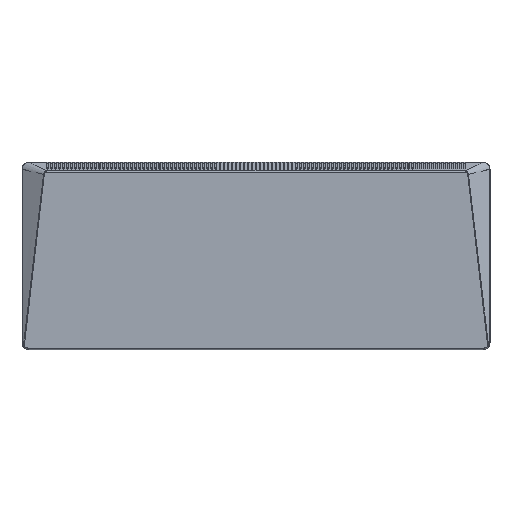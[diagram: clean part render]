
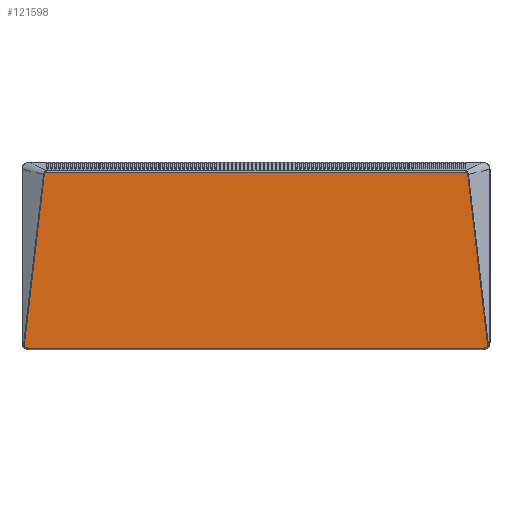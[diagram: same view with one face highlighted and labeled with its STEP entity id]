
A CAD part, top view. The second image highlights one B-rep face of the part: STEP entity #121598.
In plain terms, the highlighted planar face has unit normal (0, 0, 1).
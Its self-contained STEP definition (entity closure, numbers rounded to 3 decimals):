
#121598 = ADVANCED_FACE('',(#121599),#121742,.T.);
#121599 = FACE_BOUND('',#121600,.F.);
#121600 = EDGE_LOOP('',(#121601,#121639,#121659,#121667,#121685,#121718,
    #121727,#121735));
#121601 = ORIENTED_EDGE('',*,*,#121602,.F.);
#121602 = EDGE_CURVE('',#121603,#121605,#121607,.T.);
#121603 = VERTEX_POINT('',#121604);
#121604 = CARTESIAN_POINT('',(-474.95,182.919,52.));
#121605 = VERTEX_POINT('',#121606);
#121606 = CARTESIAN_POINT('',(-519.778,-201.957,52.));
#121607 = B_SPLINE_CURVE_WITH_KNOTS('',3,(#121608,#121609,#121610,
    #121611,#121612,#121613,#121614,#121615,#121616,#121617,#121618,
    #121619,#121620,#121621,#121622,#121623,#121624,#121625,#121626,
    #121627,#121628,#121629,#121630,#121631,#121632,#121633,#121634,
    #121635,#121636,#121637,#121638),.UNSPECIFIED.,.F.,.F.,(4,1,1,1,1,1,
    1,1,1,1,1,1,1,1,1,1,1,1,1,1,1,1,1,1,1,1,1,1,4),(0.,
    0.036,0.071,0.107,0.143,
    0.179,0.214,0.25,0.286,0.321,
    0.357,0.393,0.429,0.464,0.5,
    0.536,0.571,0.607,0.643,
    0.679,0.714,0.75,0.786,0.821,
    0.857,0.893,0.929,0.964,1.),
  .UNSPECIFIED.);
#121608 = CARTESIAN_POINT('',(-474.95,182.919,52.));
#121609 = CARTESIAN_POINT('',(-476.252,171.803,52.));
#121610 = CARTESIAN_POINT('',(-478.766,150.331,52.));
#121611 = CARTESIAN_POINT('',(-482.254,120.532,52.));
#121612 = CARTESIAN_POINT('',(-485.505,92.764,52.));
#121613 = CARTESIAN_POINT('',(-488.557,66.684,52.));
#121614 = CARTESIAN_POINT('',(-491.454,41.922,52.));
#121615 = CARTESIAN_POINT('',(-494.224,18.245,52.));
#121616 = CARTESIAN_POINT('',(-496.837,-4.087,52.));
#121617 = CARTESIAN_POINT('',(-499.27,-24.903,52.));
#121618 = CARTESIAN_POINT('',(-501.54,-44.316,52.));
#121619 = CARTESIAN_POINT('',(-503.623,-62.151,52.));
#121620 = CARTESIAN_POINT('',(-505.491,-78.144,52.));
#121621 = CARTESIAN_POINT('',(-507.152,-92.38,52.));
#121622 = CARTESIAN_POINT('',(-508.641,-105.147,52.));
#121623 = CARTESIAN_POINT('',(-509.983,-116.668,52.));
#121624 = CARTESIAN_POINT('',(-511.195,-127.085,52.));
#121625 = CARTESIAN_POINT('',(-512.292,-136.524,52.));
#121626 = CARTESIAN_POINT('',(-513.287,-145.098,52.));
#121627 = CARTESIAN_POINT('',(-514.19,-152.898,52.));
#121628 = CARTESIAN_POINT('',(-515.012,-160.003,52.));
#121629 = CARTESIAN_POINT('',(-515.759,-166.483,52.));
#121630 = CARTESIAN_POINT('',(-516.439,-172.398,52.));
#121631 = CARTESIAN_POINT('',(-517.058,-177.806,52.));
#121632 = CARTESIAN_POINT('',(-517.623,-182.756,52.));
#121633 = CARTESIAN_POINT('',(-518.138,-187.29,52.));
#121634 = CARTESIAN_POINT('',(-518.608,-191.448,52.));
#121635 = CARTESIAN_POINT('',(-519.037,-195.267,52.));
#121636 = CARTESIAN_POINT('',(-519.427,-198.773,52.));
#121637 = CARTESIAN_POINT('',(-519.665,-200.927,52.));
#121638 = CARTESIAN_POINT('',(-519.778,-201.957,52.));
#121639 = ORIENTED_EDGE('',*,*,#121640,.F.);
#121640 = EDGE_CURVE('',#121641,#121603,#121643,.T.);
#121641 = VERTEX_POINT('',#121642);
#121642 = CARTESIAN_POINT('',(-469.742,188.259,52.));
#121643 = B_SPLINE_CURVE_WITH_KNOTS('',3,(#121644,#121645,#121646,
    #121647,#121648,#121649,#121650,#121651,#121652,#121653,#121654,
    #121655,#121656,#121657,#121658),.UNSPECIFIED.,.F.,.F.,(4,1,1,1,1,1,
    1,1,1,1,1,1,4),(0.,0.083,0.167,0.25,
    0.333,0.417,0.5,0.583,0.667,0.75
    ,0.833,0.917,1.),.UNSPECIFIED.);
#121644 = CARTESIAN_POINT('',(-469.742,188.259,52.));
#121645 = CARTESIAN_POINT('',(-469.914,188.259,52.));
#121646 = CARTESIAN_POINT('',(-470.279,188.229,52.));
#121647 = CARTESIAN_POINT('',(-470.899,188.084,52.));
#121648 = CARTESIAN_POINT('',(-471.558,187.826,52.));
#121649 = CARTESIAN_POINT('',(-472.158,187.491,52.));
#121650 = CARTESIAN_POINT('',(-472.686,187.106,52.));
#121651 = CARTESIAN_POINT('',(-473.154,186.679,52.));
#121652 = CARTESIAN_POINT('',(-473.57,186.212,52.));
#121653 = CARTESIAN_POINT('',(-473.944,185.7,52.));
#121654 = CARTESIAN_POINT('',(-474.276,185.137,52.));
#121655 = CARTESIAN_POINT('',(-474.566,184.505,52.));
#121656 = CARTESIAN_POINT('',(-474.805,183.783,52.));
#121657 = CARTESIAN_POINT('',(-474.915,183.22,52.));
#121658 = CARTESIAN_POINT('',(-474.95,182.919,52.));
#121659 = ORIENTED_EDGE('',*,*,#121660,.F.);
#121660 = EDGE_CURVE('',#121661,#121641,#121663,.T.);
#121661 = VERTEX_POINT('',#121662);
#121662 = CARTESIAN_POINT('',(469.742,188.259,52.));
#121663 = LINE('',#121664,#121665);
#121664 = CARTESIAN_POINT('',(469.742,188.259,52.));
#121665 = VECTOR('',#121666,1.);
#121666 = DIRECTION('',(-1.,0.,0.));
#121667 = ORIENTED_EDGE('',*,*,#121668,.F.);
#121668 = EDGE_CURVE('',#121669,#121661,#121671,.T.);
#121669 = VERTEX_POINT('',#121670);
#121670 = CARTESIAN_POINT('',(474.95,182.919,52.));
#121671 = B_SPLINE_CURVE_WITH_KNOTS('',3,(#121672,#121673,#121674,
    #121675,#121676,#121677,#121678,#121679,#121680,#121681,#121682,
    #121683,#121684),.UNSPECIFIED.,.F.,.F.,(4,1,1,1,1,1,1,1,1,1,4),(0.,
    0.1,0.2,0.3,0.4,0.5,0.6,0.7,0.8,0.9,1.),.QUASI_UNIFORM_KNOTS.);
#121672 = CARTESIAN_POINT('',(474.95,182.919,52.));
#121673 = CARTESIAN_POINT('',(474.919,183.186,52.));
#121674 = CARTESIAN_POINT('',(474.821,183.722,52.));
#121675 = CARTESIAN_POINT('',(474.577,184.493,52.));
#121676 = CARTESIAN_POINT('',(474.184,185.334,52.));
#121677 = CARTESIAN_POINT('',(473.617,186.183,52.));
#121678 = CARTESIAN_POINT('',(472.922,186.922,52.));
#121679 = CARTESIAN_POINT('',(472.21,187.466,52.));
#121680 = CARTESIAN_POINT('',(471.524,187.843,52.));
#121681 = CARTESIAN_POINT('',(470.864,188.094,52.));
#121682 = CARTESIAN_POINT('',(470.236,188.235,52.));
#121683 = CARTESIAN_POINT('',(469.897,188.259,52.));
#121684 = CARTESIAN_POINT('',(469.742,188.259,52.));
#121685 = ORIENTED_EDGE('',*,*,#121686,.F.);
#121686 = EDGE_CURVE('',#121687,#121669,#121689,.T.);
#121687 = VERTEX_POINT('',#121688);
#121688 = CARTESIAN_POINT('',(519.778,-201.956,52.));
#121689 = B_SPLINE_CURVE_WITH_KNOTS('',3,(#121690,#121691,#121692,
    #121693,#121694,#121695,#121696,#121697,#121698,#121699,#121700,
    #121701,#121702,#121703,#121704,#121705,#121706,#121707,#121708,
    #121709,#121710,#121711,#121712,#121713,#121714,#121715,#121716,
    #121717),.UNSPECIFIED.,.F.,.F.,(4,1,1,1,1,1,1,1,1,1,1,1,1,1,1,1,1,1,
    1,1,1,1,1,1,1,4),(0.,0.04,0.08,0.12,0.16,0.2,0.24,0.28,0.32,0.36
    ,0.4,0.44,0.48,0.52,0.56,0.6,0.64,0.68,0.72,0.76,0.8,0.84,0.88,0.92,
    0.96,1.),.QUASI_UNIFORM_KNOTS.);
#121690 = CARTESIAN_POINT('',(519.778,-201.956,52.));
#121691 = CARTESIAN_POINT('',(519.657,-200.86,52.));
#121692 = CARTESIAN_POINT('',(519.403,-198.551,52.));
#121693 = CARTESIAN_POINT('',(518.981,-194.767,52.));
#121694 = CARTESIAN_POINT('',(518.513,-190.6,52.));
#121695 = CARTESIAN_POINT('',(517.994,-186.013,52.));
#121696 = CARTESIAN_POINT('',(517.419,-180.964,52.));
#121697 = CARTESIAN_POINT('',(516.784,-175.404,52.));
#121698 = CARTESIAN_POINT('',(516.079,-169.269,52.));
#121699 = CARTESIAN_POINT('',(515.298,-162.489,52.));
#121700 = CARTESIAN_POINT('',(514.432,-154.988,52.));
#121701 = CARTESIAN_POINT('',(513.469,-146.673,52.));
#121702 = CARTESIAN_POINT('',(512.398,-137.436,52.));
#121703 = CARTESIAN_POINT('',(511.201,-127.138,52.));
#121704 = CARTESIAN_POINT('',(509.859,-115.607,52.));
#121705 = CARTESIAN_POINT('',(508.346,-102.619,52.));
#121706 = CARTESIAN_POINT('',(506.627,-87.882,52.));
#121707 = CARTESIAN_POINT('',(504.661,-71.039,52.));
#121708 = CARTESIAN_POINT('',(502.402,-51.695,52.));
#121709 = CARTESIAN_POINT('',(499.814,-29.549,52.));
#121710 = CARTESIAN_POINT('',(496.969,-5.219,52.));
#121711 = CARTESIAN_POINT('',(493.967,20.446,52.));
#121712 = CARTESIAN_POINT('',(490.778,47.705,52.));
#121713 = CARTESIAN_POINT('',(487.312,77.322,52.));
#121714 = CARTESIAN_POINT('',(483.538,109.567,52.));
#121715 = CARTESIAN_POINT('',(479.445,144.525,52.));
#121716 = CARTESIAN_POINT('',(476.486,169.801,52.));
#121717 = CARTESIAN_POINT('',(474.95,182.919,52.));
#121718 = ORIENTED_EDGE('',*,*,#121719,.F.);
#121719 = EDGE_CURVE('',#121720,#121687,#121722,.T.);
#121720 = VERTEX_POINT('',#121721);
#121721 = CARTESIAN_POINT('',(510.,-207.,52.));
#121722 = CIRCLE('',#121723,12.);
#121723 = AXIS2_PLACEMENT_3D('',#121724,#121725,#121726);
#121724 = CARTESIAN_POINT('',(510.,-195.,52.));
#121725 = DIRECTION('',(0.,0.,1.));
#121726 = DIRECTION('',(0.,-1.,0.));
#121727 = ORIENTED_EDGE('',*,*,#121728,.F.);
#121728 = EDGE_CURVE('',#121729,#121720,#121731,.T.);
#121729 = VERTEX_POINT('',#121730);
#121730 = CARTESIAN_POINT('',(-510.,-207.,52.));
#121731 = LINE('',#121732,#121733);
#121732 = CARTESIAN_POINT('',(-510.,-207.,52.));
#121733 = VECTOR('',#121734,1.);
#121734 = DIRECTION('',(1.,0.,0.));
#121735 = ORIENTED_EDGE('',*,*,#121736,.F.);
#121736 = EDGE_CURVE('',#121605,#121729,#121737,.T.);
#121737 = CIRCLE('',#121738,12.);
#121738 = AXIS2_PLACEMENT_3D('',#121739,#121740,#121741);
#121739 = CARTESIAN_POINT('',(-510.,-195.,52.));
#121740 = DIRECTION('',(0.,0.,1.));
#121741 = DIRECTION('',(-0.815,-0.58,0.));
#121742 = PLANE('',#121743);
#121743 = AXIS2_PLACEMENT_3D('',#121744,#121745,#121746);
#121744 = CARTESIAN_POINT('',(0.,0.,52.));
#121745 = DIRECTION('',(0.,0.,1.));
#121746 = DIRECTION('',(1.,0.,-0.));
